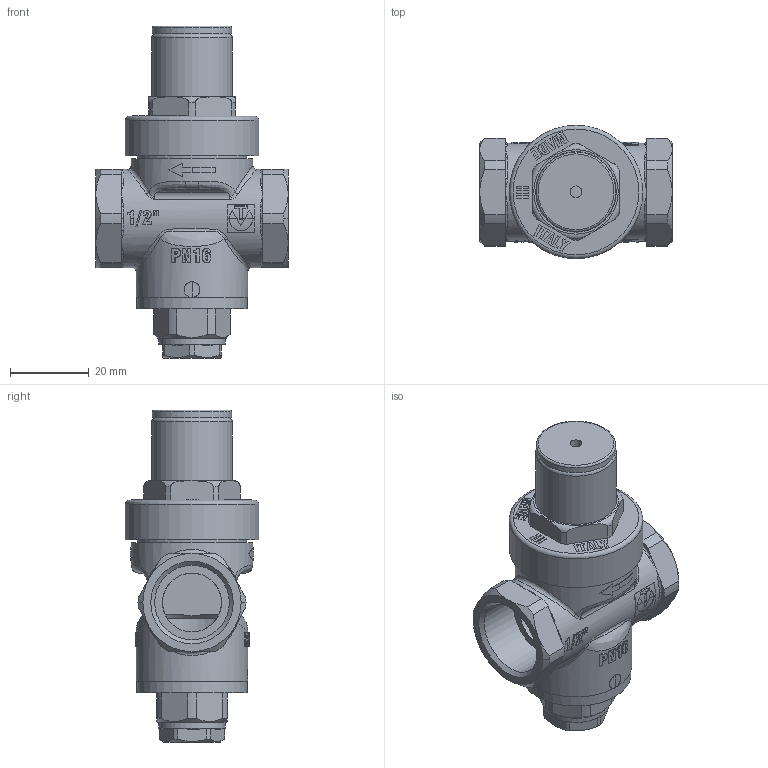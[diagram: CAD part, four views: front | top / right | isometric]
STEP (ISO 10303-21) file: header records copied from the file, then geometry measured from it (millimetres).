
FILE_DESCRIPTION(('TFLEX Exchange Step'),'2;1');
FILE_NAME('Pressure reducing valve 1_2 VT.088.N.0455RM Valtec.stp', '2023-09-12T12:22:22+03:00',('denis'),('Unknown organisation'),'TFLEX Exchange 2023.0','T-FLEX CAD','Unknown authorisation');
FILE_SCHEMA( ('AUTOMOTIVE_DESIGN { 1 0 10303 214 1 1 1 1 }') );
Length unit declared in the file: millimetre
Products named in the file (1): Nodes
Bounding box: 49 x 34 x 84.5 mm (x, y, z)
Volume: 31411.8 mm3; surface area: 21621.3 mm2
Topology: 4 solids, 4 shells, 624 faces, 1685 edges, 1093 vertices
Faces by surface type: plane 309, bspline 150, cylinder 114, torus 26, cone 25
Full cylindrical faces by diameter (mm): 2 x1, 3 x1, 5.8 x1, 8 x1, 9.5 x1, 11 x1, 11.5 x1, 12 x1, 13.2 x1, 15 x4, 17 x1, 19 x2, 20.3 x1, 20.5 x1, 22.5 x1, 24.5 x1, 25 x1, 27.8 x1, 28 x2, 28.5 x1, 31 x1, 34 x1
Entity records: 27166 total; most frequent: CARTESIAN_POINT 12346, ORIENTED_EDGE 3314, DIRECTION 2648, EDGE_CURVE 1657, VERTEX_POINT 1093, AXIS2_PLACEMENT_3D 893, VECTOR 862, LINE 862
